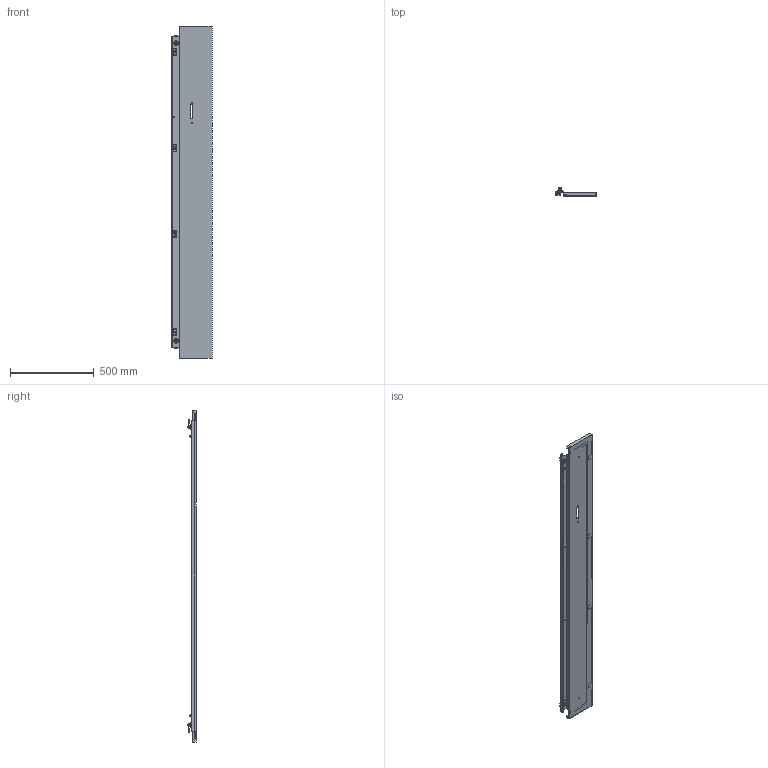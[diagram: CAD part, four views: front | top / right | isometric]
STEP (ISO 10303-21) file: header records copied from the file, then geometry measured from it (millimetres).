
FILE_DESCRIPTION((''),'2;1');
FILE_NAME('DBE202D_ASM','2026-03-13T12:47:52',('JoelB'),('SAGINAW CONTROL & ENGINEERING'),'CREO PARAMETRIC BY PTC INC, 2021284','CREO PARAMETRIC BY PTC INC, 2021284','');
FILE_SCHEMA(('AUTOMOTIVE_DESIGN { 1 0 10303 214 1 1 1 1 }'));
Products named in the file (2): DBE202_D_4434; DBE202D_ASM
Assembly tree (1 placements, depth 2):
  DBE202D_ASM
    DBE202_D_4434
Bounding box: 239.26 x 50.3 x 1982.02 mm (x, y, z)
Surface area: 1259847.1 mm2 (no closed solid volume)
Topology: 0 solids, 20 shells, 965 faces, 2677 edges, 1763 vertices
Faces by surface type: plane 468, cylinder 318, cone 78, bspline 65, torus 31, sphere 4, extrusion 1
Entity records: 41129 total; most frequent: CARTESIAN_POINT 10309, ORIENTED_EDGE 5292, DIRECTION 4536, EDGE_CURVE 2671, VERTEX_POINT 1763, AXIS2_PLACEMENT_3D 1621, VECTOR 1294, LINE 1293
